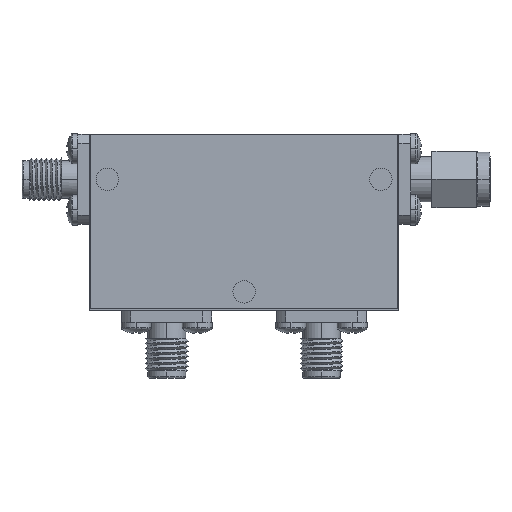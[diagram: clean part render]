
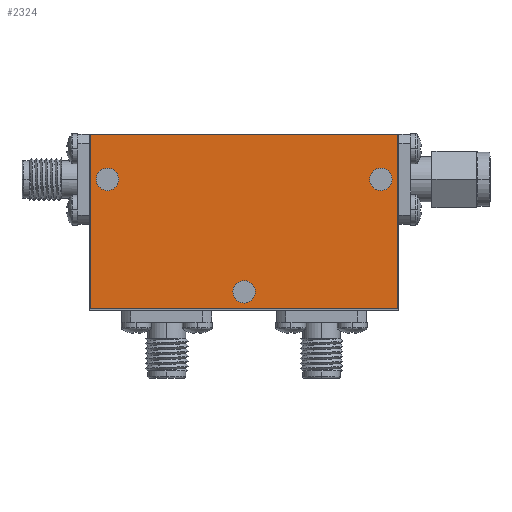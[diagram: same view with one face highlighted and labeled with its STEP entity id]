
A CAD part, top view. The second image highlights one B-rep face of the part: STEP entity #2324.
In plain terms, the highlighted planar face has unit normal (0, 0, 1) as drawn and (0, 0, -1) by its records, which use the part's own axes.
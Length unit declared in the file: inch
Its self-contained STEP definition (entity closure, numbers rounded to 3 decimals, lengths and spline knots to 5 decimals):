
#17 = LINE ( 'NONE', #4118, #797 ) ;
#39 = LINE ( 'NONE', #3602, #5246 ) ;
#63 = VERTEX_POINT ( 'NONE', #1379 ) ;
#75 = CARTESIAN_POINT ( 'NONE',  ( -0.6975, 0.2225, 0. ) ) ;
#119 = ORIENTED_EDGE ( 'NONE', *, *, #1026, .T. ) ;
#128 = CARTESIAN_POINT ( 'NONE',  ( 0., -0.4025, 0. ) ) ;
#178 = CARTESIAN_POINT ( 'NONE',  ( 0.855, 0.4725, 0. ) ) ;
#189 = ORIENTED_EDGE ( 'NONE', *, *, #5703, .F. ) ;
#208 = CARTESIAN_POINT ( 'NONE',  ( 0.0625, -0.4025, 0. ) ) ;
#259 = AXIS2_PLACEMENT_3D ( 'NONE', #3154, #5497, #5518 ) ;
#400 = VECTOR ( 'NONE', #5328, 39.37008 ) ;
#538 = EDGE_CURVE ( 'NONE', #1076, #4258, #796, .T. ) ;
#545 = VERTEX_POINT ( 'NONE', #1971 ) ;
#558 = DIRECTION ( 'NONE',  ( 1., 0., 0. ) ) ;
#602 = DIRECTION ( 'NONE',  ( 0., 0., 1. ) ) ;
#792 = ORIENTED_EDGE ( 'NONE', *, *, #1904, .F. ) ;
#796 = CIRCLE ( 'NONE', #5428, 0.0625 ) ;
#797 = VECTOR ( 'NONE', #5506, 39.37008 ) ;
#881 = LINE ( 'NONE', #5139, #3314 ) ;
#1026 = EDGE_CURVE ( 'NONE', #3952, #3705, #5786, .T. ) ;
#1076 = VERTEX_POINT ( 'NONE', #208 ) ;
#1097 = CARTESIAN_POINT ( 'NONE',  ( 0.76, 0.2225, 0. ) ) ;
#1103 = VERTEX_POINT ( 'NONE', #4276 ) ;
#1124 = DIRECTION ( 'NONE',  ( 0., 0., 1. ) ) ;
#1205 = DIRECTION ( 'NONE',  ( 0., 0., 1. ) ) ;
#1224 = ORIENTED_EDGE ( 'NONE', *, *, #2780, .T. ) ;
#1227 = DIRECTION ( 'NONE',  ( 0., 1., 0. ) ) ;
#1374 = CARTESIAN_POINT ( 'NONE',  ( -0.0625, -0.4025, 0. ) ) ;
#1379 = CARTESIAN_POINT ( 'NONE',  ( -0.855, -0.4975, 0. ) ) ;
#1405 = EDGE_LOOP ( 'NONE', ( #189, #792, #1482, #2894 ) ) ;
#1482 = ORIENTED_EDGE ( 'NONE', *, *, #5414, .F. ) ;
#1663 = DIRECTION ( 'NONE',  ( 1., 0., 0. ) ) ;
#1707 = CARTESIAN_POINT ( 'NONE',  ( 0.76, 0.2225, 0. ) ) ;
#1758 = CIRCLE ( 'NONE', #4246, 0.0625 ) ;
#1904 = EDGE_CURVE ( 'NONE', #63, #1103, #4021, .T. ) ;
#1932 = EDGE_CURVE ( 'NONE', #545, #4040, #1758, .T. ) ;
#1971 = CARTESIAN_POINT ( 'NONE',  ( 0.8225, 0.2225, 0. ) ) ;
#1978 = EDGE_LOOP ( 'NONE', ( #4864, #1224 ) ) ;
#2037 = DIRECTION ( 'NONE',  ( 0., 0., 1. ) ) ;
#2050 = CIRCLE ( 'NONE', #4766, 0.0625 ) ;
#2200 = ORIENTED_EDGE ( 'NONE', *, *, #5237, .T. ) ;
#2238 = DIRECTION ( 'NONE',  ( 1., 0., 0. ) ) ;
#2292 = AXIS2_PLACEMENT_3D ( 'NONE', #1097, #1124, #3362 ) ;
#2324 = ADVANCED_FACE ( 'NONE', ( #4571, #3021, #3879, #2599 ), #3714, .F. ) ;
#2398 = DIRECTION ( 'NONE',  ( 1., 0., 0. ) ) ;
#2447 = CARTESIAN_POINT ( 'NONE',  ( -0.855, 0.4725, 0. ) ) ;
#2599 = FACE_OUTER_BOUND ( 'NONE', #1405, .T. ) ;
#2780 = EDGE_CURVE ( 'NONE', #4258, #1076, #5146, .T. ) ;
#2894 = ORIENTED_EDGE ( 'NONE', *, *, #3552, .F. ) ;
#3021 = FACE_BOUND ( 'NONE', #1978, .T. ) ;
#3154 = CARTESIAN_POINT ( 'NONE',  ( 0., -0.4025, 0. ) ) ;
#3305 = ORIENTED_EDGE ( 'NONE', *, *, #1932, .T. ) ;
#3314 = VECTOR ( 'NONE', #4650, 39.37008 ) ;
#3362 = DIRECTION ( 'NONE',  ( 1., 0., 0. ) ) ;
#3431 = CARTESIAN_POINT ( 'NONE',  ( -0.855, -0.4975, 0. ) ) ;
#3480 = EDGE_LOOP ( 'NONE', ( #3305, #4669 ) ) ;
#3552 = EDGE_CURVE ( 'NONE', #3970, #4370, #17, .T. ) ;
#3602 = CARTESIAN_POINT ( 'NONE',  ( 0.855, 0.4725, 0. ) ) ;
#3705 = VERTEX_POINT ( 'NONE', #75 ) ;
#3714 = PLANE ( 'NONE',  #5038 ) ;
#3879 = FACE_BOUND ( 'NONE', #5247, .T. ) ;
#3952 = VERTEX_POINT ( 'NONE', #4251 ) ;
#3970 = VERTEX_POINT ( 'NONE', #178 ) ;
#4021 = LINE ( 'NONE', #3431, #400 ) ;
#4040 = VERTEX_POINT ( 'NONE', #4226 ) ;
#4058 = EDGE_CURVE ( 'NONE', #4040, #545, #5562, .T. ) ;
#4118 = CARTESIAN_POINT ( 'NONE',  ( -0.855, 0.4725, 0. ) ) ;
#4226 = CARTESIAN_POINT ( 'NONE',  ( 0.6975, 0.2225, 0. ) ) ;
#4246 = AXIS2_PLACEMENT_3D ( 'NONE', #1707, #1205, #1663 ) ;
#4251 = CARTESIAN_POINT ( 'NONE',  ( -0.8225, 0.2225, 0. ) ) ;
#4258 = VERTEX_POINT ( 'NONE', #1374 ) ;
#4276 = CARTESIAN_POINT ( 'NONE',  ( 0.855, -0.4975, 0. ) ) ;
#4370 = VERTEX_POINT ( 'NONE', #2447 ) ;
#4571 = FACE_BOUND ( 'NONE', #3480, .T. ) ;
#4646 = CARTESIAN_POINT ( 'NONE',  ( 0., 0., 0. ) ) ;
#4650 = DIRECTION ( 'NONE',  ( 0., -1., 0. ) ) ;
#4669 = ORIENTED_EDGE ( 'NONE', *, *, #4058, .T. ) ;
#4766 = AXIS2_PLACEMENT_3D ( 'NONE', #5838, #4948, #2238 ) ;
#4864 = ORIENTED_EDGE ( 'NONE', *, *, #538, .T. ) ;
#4948 = DIRECTION ( 'NONE',  ( 0., 0., 1. ) ) ;
#5038 = AXIS2_PLACEMENT_3D ( 'NONE', #4646, #5109, #2398 ) ;
#5109 = DIRECTION ( 'NONE',  ( 0., 0., 1. ) ) ;
#5139 = CARTESIAN_POINT ( 'NONE',  ( -0.855, 0.4725, 0. ) ) ;
#5146 = CIRCLE ( 'NONE', #259, 0.0625 ) ;
#5237 = EDGE_CURVE ( 'NONE', #3705, #3952, #2050, .T. ) ;
#5246 = VECTOR ( 'NONE', #1227, 39.37008 ) ;
#5247 = EDGE_LOOP ( 'NONE', ( #2200, #119 ) ) ;
#5328 = DIRECTION ( 'NONE',  ( 1., 0., 0. ) ) ;
#5414 = EDGE_CURVE ( 'NONE', #4370, #63, #881, .T. ) ;
#5428 = AXIS2_PLACEMENT_3D ( 'NONE', #128, #2037, #5654 ) ;
#5497 = DIRECTION ( 'NONE',  ( 0., 0., 1. ) ) ;
#5506 = DIRECTION ( 'NONE',  ( -1., 0., 0. ) ) ;
#5518 = DIRECTION ( 'NONE',  ( 1., 0., 0. ) ) ;
#5543 = AXIS2_PLACEMENT_3D ( 'NONE', #5592, #602, #558 ) ;
#5562 = CIRCLE ( 'NONE', #2292, 0.0625 ) ;
#5592 = CARTESIAN_POINT ( 'NONE',  ( -0.76, 0.2225, 0. ) ) ;
#5654 = DIRECTION ( 'NONE',  ( 1., 0., 0. ) ) ;
#5703 = EDGE_CURVE ( 'NONE', #1103, #3970, #39, .T. ) ;
#5786 = CIRCLE ( 'NONE', #5543, 0.0625 ) ;
#5838 = CARTESIAN_POINT ( 'NONE',  ( -0.76, 0.2225, 0. ) ) ;
